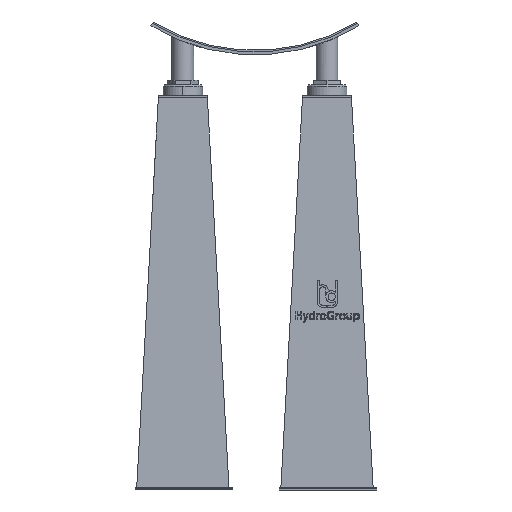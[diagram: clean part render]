
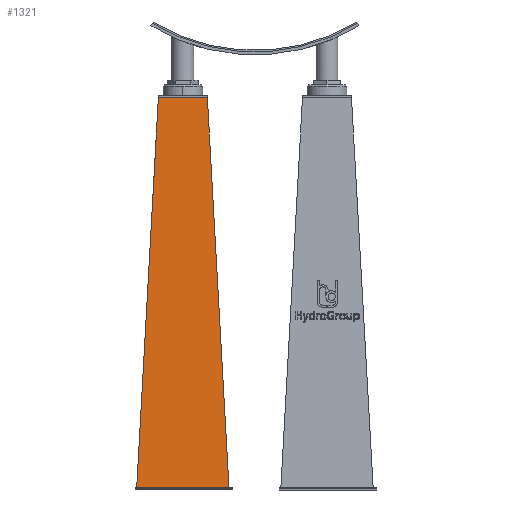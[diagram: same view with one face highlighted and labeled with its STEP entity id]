
A CAD part, front view. The second image highlights one B-rep face of the part: STEP entity #1321.
In plain terms, the highlighted planar face has unit normal (0, -0.999, 0.055).
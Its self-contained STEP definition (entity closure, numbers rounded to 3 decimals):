
#1321=ADVANCED_FACE('',(#2653),#2654,.F.);
#2653=FACE_OUTER_BOUND('',#4077,.T.);
#2654=PLANE('',#4078);
#4077=EDGE_LOOP('',(#8125,#8126,#8127,#8128));
#4078=AXIS2_PLACEMENT_3D('',#8129,#8130,#8131);
#8125=ORIENTED_EDGE('',*,*,#9750,.F.);
#8126=ORIENTED_EDGE('',*,*,#9784,.F.);
#8127=ORIENTED_EDGE('',*,*,#9778,.F.);
#8128=ORIENTED_EDGE('',*,*,#9504,.T.);
#8129=CARTESIAN_POINT('',(168.413,419.098,438.835));
#8130=DIRECTION('',(0.,0.998,-0.055));
#8131=DIRECTION('',(1.0,0.,0.));
#9504=EDGE_CURVE('',#11524,#11521,#11525,.F.);
#9750=EDGE_CURVE('',#11848,#11521,#11850,.F.);
#9778=EDGE_CURVE('',#11524,#11883,#11888,.T.);
#9784=EDGE_CURVE('',#11883,#11848,#11894,.T.);
#11521=VERTEX_POINT('',#15130);
#11524=VERTEX_POINT('',#15134);
#11525=LINE('',#15135,#15136);
#11848=VERTEX_POINT('',#15721);
#11850=LINE('',#15724,#15725);
#11883=VERTEX_POINT('',#15773);
#11888=LINE('',#15781,#15782);
#11894=LINE('',#15789,#15790);
#15130=CARTESIAN_POINT('',(-24.592,359.089,-643.331));
#15134=CARTESIAN_POINT('',(35.408,419.089,438.669));
#15135=CARTESIAN_POINT('',(35.625,419.306,442.583));
#15136=VECTOR('',#17679,1.);
#15721=CARTESIAN_POINT('',(231.418,359.089,-643.331));
#15724=CARTESIAN_POINT('',(135.913,359.089,-643.331));
#15725=VECTOR('',#17855,1.0);
#15773=CARTESIAN_POINT('',(171.418,419.089,438.669));
#15781=CARTESIAN_POINT('',(135.913,419.089,438.669));
#15782=VECTOR('',#17874,1.0);
#15789=CARTESIAN_POINT('',(171.201,419.306,442.583));
#15790=VECTOR('',#17876,1.);
#17679=DIRECTION('',(0.055,0.055,0.997));
#17855=DIRECTION('',(1.0,0.,0.));
#17874=DIRECTION('',(1.0,0.,0.));
#17876=DIRECTION('',(0.055,-0.055,-0.997));
